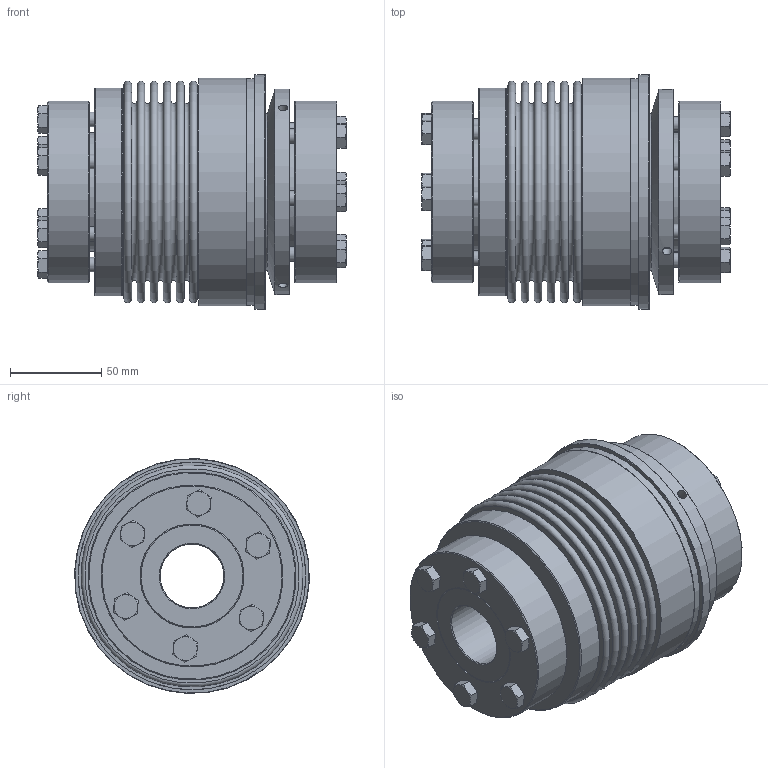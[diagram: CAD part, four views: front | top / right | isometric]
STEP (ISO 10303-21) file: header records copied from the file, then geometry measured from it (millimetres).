
FILE_DESCRIPTION( ( 'Unknown' ), '1' );
FILE_NAME( 'K:/Konstruktion/Korrigierte 3D Modelle/KBK-B-AA/KBK-BAA-500-171.stp', 'Unknown', ( 'Unknown' ), ( 'Unknown' ), 'PSStep 16.0.42', 'Unknown', ' ' );
FILE_SCHEMA( ( 'AUTOMOTIVE_DESIGN { 1 0 10303 214 1 1 1 1 }' ) );
Length unit declared in the file: millimetre
Products named in the file (18): Stellring 500_0; KBK L-A-500 Grundkörper_0; din_en_24017_m8x35_0; Druckring L-A-500_0; Druckring 500_0; A-500; BA6-500; DR500_Standard_0; Hex Screw GradeC_DIN_ISO 4018 - M8 x 40-NN_0; BA500_Standard_0; Assem1; BL500_Standard_2; Flansch BK500
Assembly tree (27 placements, depth 4):
  Assem1
    BL500_Standard_2
    Flansch BK500
    BA6-500
      DR500_Standard_0
      Hex Screw GradeC_DIN_ISO 4018 - M8 x 40-NN_0  x6
      BA500_Standard_0
    A-500
      Stellring 500_0
        Stellring 500_0
      Druckring 500_0
        Druckring 500_0
      KBK L-A-500 Grundkörper_0
        KBK L-A-500 Grundkörper_0
      din_en_24017_m8x35_0  x6
        din_en_24017_m8x35_0
      Druckring L-A-500_0
        Druckring L-A-500_0
Bounding box: 169.35 x 128.86 x 128.86 mm (x, y, z)
Volume: 975153.4 mm3; surface area: 335770.1 mm2
Topology: 20 solids, 20 shells, 423 faces, 872 edges, 554 vertices
Faces by surface type: plane 194, cone 124, cylinder 75, torus 30
Full cylindrical faces by diameter (mm): 3.242 x3, 5.1 x3, 5.2 x3, 6.647 x6, 6.8 x6, 8 x12, 8.5 x6, 9 x6, 11.63 x6, 35 x2, 62 x1, 65 x2, 65.111 x2, 80 x1, 86 x2, 90 x1, 100 x2, 104.5 x1, 107.7 x2, 108.9 x2, 113 x1, 114 x1, 114.5 x1, 125 x2, 129 x1
Entity records: 8008 total; most frequent: CARTESIAN_POINT 1335, DIRECTION 1034, ORIENTED_EDGE 640, AXIS2_PLACEMENT_3D 489, EDGE_LOOP 446, EDGE_CURVE 320, FACE_OUTER_BOUND 313, VERTEX_POINT 284
